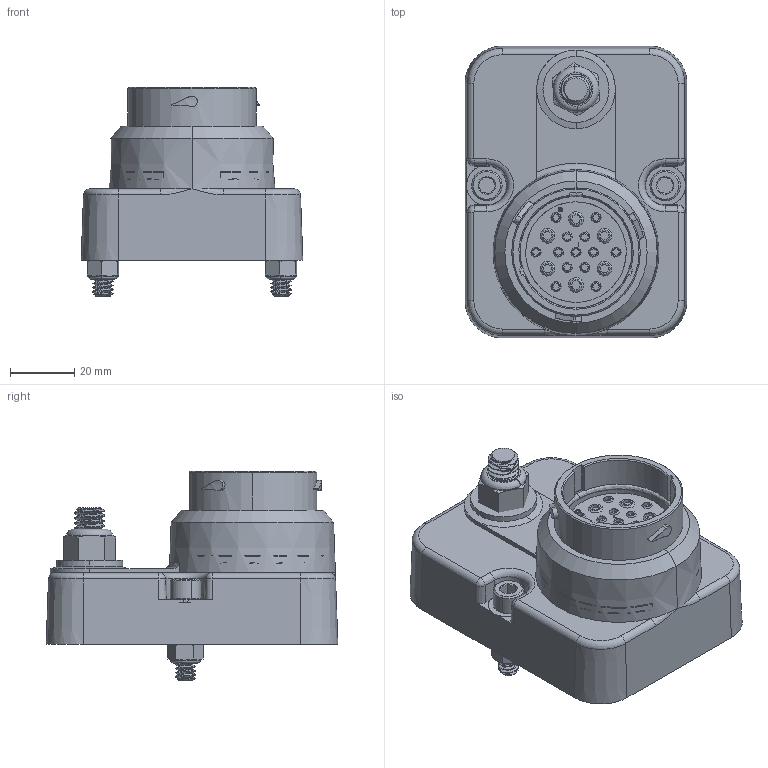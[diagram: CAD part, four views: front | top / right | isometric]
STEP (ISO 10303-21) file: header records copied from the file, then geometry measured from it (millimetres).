
FILE_DESCRIPTION (( 'STEP AP214' ), '1' );
FILE_NAME ('power distributor V2.STEP', '2019-04-29T21:40:54', ( '' ), ( '' ), 'SwSTEP 2.0', 'SolidWorks 2014', '' );
FILE_SCHEMA (( 'AUTOMOTIVE_DESIGN' ));
Length unit declared in the file: inch
Products named in the file (26): 92196A542_18-8 STAINLESS STEEL SOCKET HEAD CAP SCREW; 91831A127_TYPE 18-8 STAINLESS STL NYLON-INSERT LOCKNUT; 92683A845_BRASS EXTRA-WIDE THIN HEX NUT V2_92683A845; 91367A923_FLUOROSILICONE SEALING WASHER V2; base V2; 92683A845_BRASS EXTRA-WIDE THIN HEX NUT V2; power distributor V2; Copper V2; 92941A626_BRASS HEX HEAD CAP SCREW V2; HDP24-24-19PE; 91831A011_TYPE 18-8 STAINLESS STL NYLON-INSERT LOCKNUT; 90107A029_TYPE 316 STAINLESS STEEL FLAT WASHER_90107A029; 90107A029_TYPE 316 STAINLESS STEEL FLAT WASHER; 91831A011_TYPE 18-8 STAINLESS STL NYLON-INSERT LOCKNUT_91831A011; 92196A542_18-8 STAINLESS STEEL SOCKET HEAD CAP SCREW_92196A542; 91831A127_TYPE 18-8 STAINLESS STL NYLON-INSERT LOCKNUT_91831A127; 91367A923_FLUOROSILICONE SEALING WASHER V2_91367A923; 92941A626_BRASS HEX HEAD CAP SCREW V2_92941A626
Assembly tree (19 placements, depth 2):
  91831A127_TYPE 18-8 STAINLESS STL NYLON-INSERT LOCKNUT
  91367A923_FLUOROSILICONE SEALING WASHER V2
  power distributor V2
    92941A626_BRASS HEX HEAD CAP SCREW V2
    92683A845_BRASS EXTRA-WIDE THIN HEX NUT V2
    92196A542_18-8 STAINLESS STEEL SOCKET HEAD CAP SCREW
    92196A542_18-8 STAINLESS STEEL SOCKET HEAD CAP SCREW
    92683A845_BRASS EXTRA-WIDE THIN HEX NUT V2
  Copper V2
  base V2
Bounding box: 69.18 x 91.02 x 65.38 mm (x, y, z)
Volume: 183200.8 mm3; surface area: 65446.9 mm2
Topology: 17 solids, 17 shells, 1591 faces, 3942 edges, 2524 vertices
Faces by surface type: cylinder 703, plane 372, cone 320, bspline 141, torus 55
Entity records: 94653 total; most frequent: CARTESIAN_POINT 63706, ORIENTED_EDGE 6710, DIRECTION 5357, EDGE_CURVE 3355, VERTEX_POINT 2156, AXIS2_PLACEMENT_3D 2104, EDGE_LOOP 1573, ADVANCED_FACE 1355
